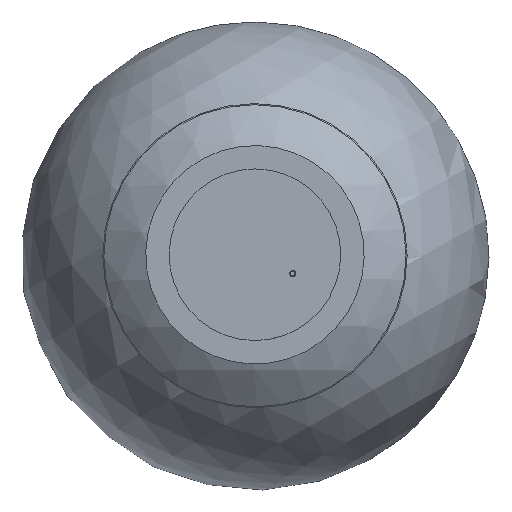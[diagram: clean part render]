
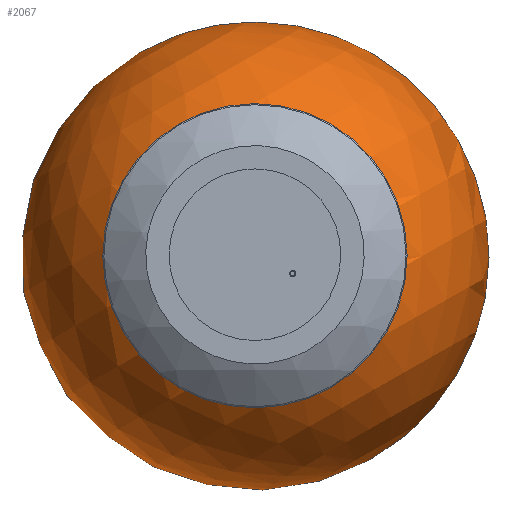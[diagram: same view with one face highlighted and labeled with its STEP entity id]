
A CAD part, top view. The second image highlights one B-rep face of the part: STEP entity #2067.
In plain terms, the highlighted spherical face has radius 150 mm.
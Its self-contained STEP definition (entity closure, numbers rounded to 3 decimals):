
#76=FACE_BOUND('',#692,.T.);
#82=SPHERICAL_SURFACE('',#2347,150.);
#547=FACE_OUTER_BOUND('',#691,.T.);
#691=EDGE_LOOP('',(#1834,#1835));
#692=EDGE_LOOP('',(#1836));
#822=CIRCLE('',#2346,60.);
#823=CIRCLE('',#2348,150.);
#999=VERTEX_POINT('',#3817);
#1000=VERTEX_POINT('',#3821);
#1001=VERTEX_POINT('',#3822);
#1281=EDGE_CURVE('',#999,#999,#822,.T.);
#1282=EDGE_CURVE('',#1000,#1001,#823,.T.);
#1834=ORIENTED_EDGE('',*,*,#1282,.T.);
#1835=ORIENTED_EDGE('',*,*,#1282,.F.);
#1836=ORIENTED_EDGE('',*,*,#1281,.T.);
#2067=ADVANCED_FACE('',(#547,#76),#82,.T.);
#2346=AXIS2_PLACEMENT_3D('',#3819,#2969,#2970);
#2347=AXIS2_PLACEMENT_3D('',#3820,#2971,#2972);
#2348=AXIS2_PLACEMENT_3D('',#3823,#2973,#2974);
#2969=DIRECTION('center_axis',(0.,0.,
-1.));
#2970=DIRECTION('ref_axis',(-0.869,-0.495,0.));
#2971=DIRECTION('center_axis',(-0.495,0.869,0.));
#2972=DIRECTION('ref_axis',(-0.869,-0.495,0.));
#2973=DIRECTION('center_axis',(0.,0.,
-1.));
#2974=DIRECTION('ref_axis',(0.869,0.495,0.));
#3817=CARTESIAN_POINT('',(52.144,29.681,287.477));
#3819=CARTESIAN_POINT('Origin',(0.,0.,
287.477));
#3820=CARTESIAN_POINT('Origin',(0.,0.,
150.));
#3821=CARTESIAN_POINT('',(-74.202,130.361,150.));
#3822=CARTESIAN_POINT('',(74.202,-130.361,150.));
#3823=CARTESIAN_POINT('Origin',(0.,0.,
150.));
